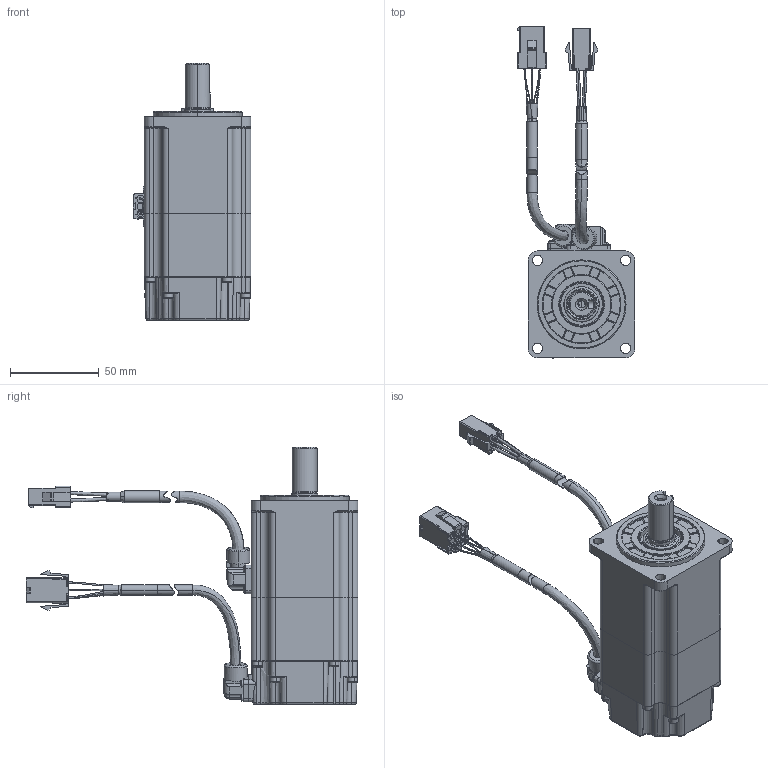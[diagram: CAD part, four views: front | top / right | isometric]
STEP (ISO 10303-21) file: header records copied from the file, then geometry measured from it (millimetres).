
FILE_DESCRIPTION (( 'STEP AP203' ), '1' );
FILE_NAME ('制动款电机（参考DM2）.STEP', '2025-04-01T07:29:45', ( 'MIDEA' ), ( 'MIDEA' ), 'SwSTEP 2.0', 'SolidWorks 2020', '' );
FILE_SCHEMA (( 'CONFIG_CONTROL_DESIGN' ));
Length unit declared in the file: millimetre
Products named in the file (1): 秶雄遴萇儂ㄗ統蕉DM2ㄘ
Bounding box: 66.26 x 186.5 x 144.7 mm (x, y, z)
Surface area: 48983.6 mm2 (no closed solid volume)
Topology: 0 solids, 45 shells, 1068 faces, 3684 edges, 2567 vertices
Faces by surface type: plane 472, cylinder 274, torus 128, cone 97, bspline 74, sphere 23
Entity records: 42806 total; most frequent: CARTESIAN_POINT 11698, DIRECTION 6535, ORIENTED_EDGE 5861, EDGE_CURVE 3660, VERTEX_POINT 2567, AXIS2_PLACEMENT_3D 2209, LINE 2117, VECTOR 2117
